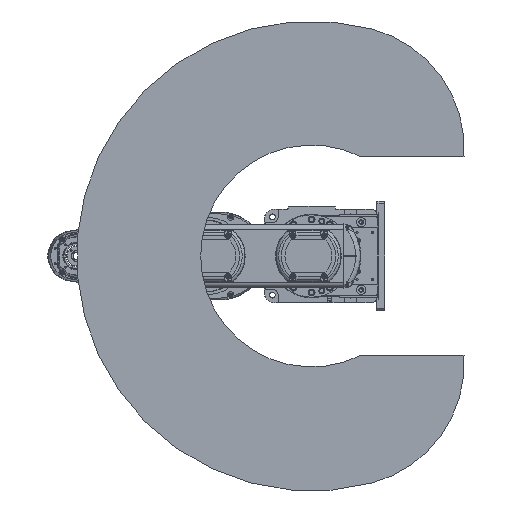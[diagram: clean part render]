
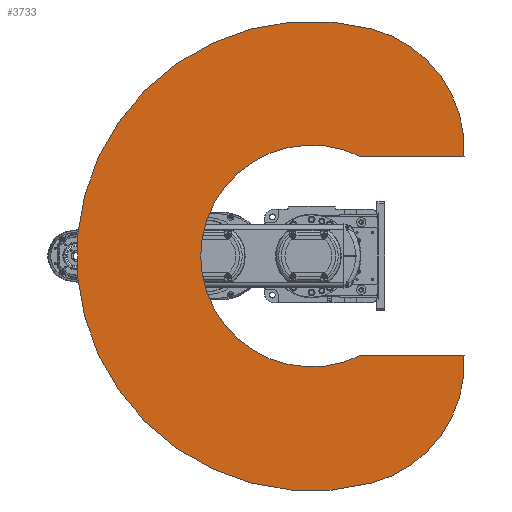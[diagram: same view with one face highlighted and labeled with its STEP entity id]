
A CAD part, front view. The second image highlights one B-rep face of the part: STEP entity #3733.
In plain terms, the highlighted planar face has unit normal (0, -1, 0).
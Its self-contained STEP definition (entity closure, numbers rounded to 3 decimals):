
#3733 = ADVANCED_FACE( '', ( #9816 ), #9817, .F. );
#9816 = FACE_OUTER_BOUND( '', #19202, .T. );
#9817 = PLANE( '', #19203 );
#19202 = EDGE_LOOP( '', ( #30962, #30963, #30964, #30965, #30966, #30967 ) );
#19203 = AXIS2_PLACEMENT_3D( '', #30968, #30969, #30970 );
#30962 = ORIENTED_EDGE( '', *, *, #52146, .T. );
#30963 = ORIENTED_EDGE( '', *, *, #52147, .F. );
#30964 = ORIENTED_EDGE( '', *, *, #50866, .F. );
#30965 = ORIENTED_EDGE( '', *, *, #52148, .F. );
#30966 = ORIENTED_EDGE( '', *, *, #52149, .T. );
#30967 = ORIENTED_EDGE( '', *, *, #51050, .F. );
#30968 = CARTESIAN_POINT( '', ( 102.614, 0., 27.495 ) );
#30969 = DIRECTION( '', ( 0., 1., 0. ) );
#30970 = DIRECTION( '', ( 0., 0., 1. ) );
#50866 = EDGE_CURVE( '', #59908, #59909, #59910, .T. );
#51050 = EDGE_CURVE( '', #60226, #60228, #60229, .F. );
#52146 = EDGE_CURVE( '', #60226, #62109, #62110, .T. );
#52147 = EDGE_CURVE( '', #59909, #62109, #62111, .T. );
#52148 = EDGE_CURVE( '', #62112, #59908, #62113, .T. );
#52149 = EDGE_CURVE( '', #62112, #60228, #62114, .T. );
#59908 = VERTEX_POINT( '', #73187 );
#59909 = VERTEX_POINT( '', #73188 );
#59910 = CIRCLE( '', #73189, 450. );
#60226 = VERTEX_POINT( '', #73750 );
#60228 = VERTEX_POINT( '', #73753 );
#60229 = CIRCLE( '', #73754, 212.47 );
#62109 = VERTEX_POINT( '', #76967 );
#62110 = LINE( '', #76968, #76969 );
#62111 = CIRCLE( '', #76970, 237.533 );
#62112 = VERTEX_POINT( '', #76971 );
#62113 = CIRCLE( '', #76972, 237.533 );
#62114 = LINE( '', #76973, #76974 );
#73187 = CARTESIAN_POINT( '', ( 434.667, 0., 116.469 ) );
#73188 = CARTESIAN_POINT( '', ( -434.667, 0., 116.469 ) );
#73189 = AXIS2_PLACEMENT_3D( '', #93765, #93766, #93767 );
#73750 = CARTESIAN_POINT( '', ( -190., 0., 95.097 ) );
#73753 = CARTESIAN_POINT( '', ( 190., 0., 95.097 ) );
#73754 = AXIS2_PLACEMENT_3D( '', #93979, #93980, #93981 );
#76967 = CARTESIAN_POINT( '', ( -190., 0., 292.035 ) );
#76968 = CARTESIAN_POINT( '', ( -190., 0., 0. ) );
#76969 = VECTOR( '', #95355, 1000. );
#76970 = AXIS2_PLACEMENT_3D( '', #95356, #95357, #95358 );
#76971 = CARTESIAN_POINT( '', ( 190., 0., 292.035 ) );
#76972 = AXIS2_PLACEMENT_3D( '', #95359, #95360, #95361 );
#76973 = CARTESIAN_POINT( '', ( 190., 0., 400. ) );
#76974 = VECTOR( '', #95362, 1000. );
#93765 = CARTESIAN_POINT( '', ( 0., 0., 0. ) );
#93766 = DIRECTION( '', ( 0., 1., 0. ) );
#93767 = DIRECTION( '', ( 1., 0., 0. ) );
#93979 = CARTESIAN_POINT( '', ( 0., 0., 0. ) );
#93980 = DIRECTION( '', ( 0., 1., 0. ) );
#93981 = DIRECTION( '', ( 0., 0., 1. ) );
#95355 = DIRECTION( '', ( 0., 0., 1. ) );
#95356 = CARTESIAN_POINT( '', ( -205.228, 0., 54.991 ) );
#95357 = DIRECTION( '', ( 0., 1., 0. ) );
#95358 = DIRECTION( '', ( 1., 0., 0. ) );
#95359 = CARTESIAN_POINT( '', ( 205.228, 0., 54.991 ) );
#95360 = DIRECTION( '', ( 0., 1., 0. ) );
#95361 = DIRECTION( '', ( 1., 0., 0. ) );
#95362 = DIRECTION( '', ( 0., 0., -1. ) );
